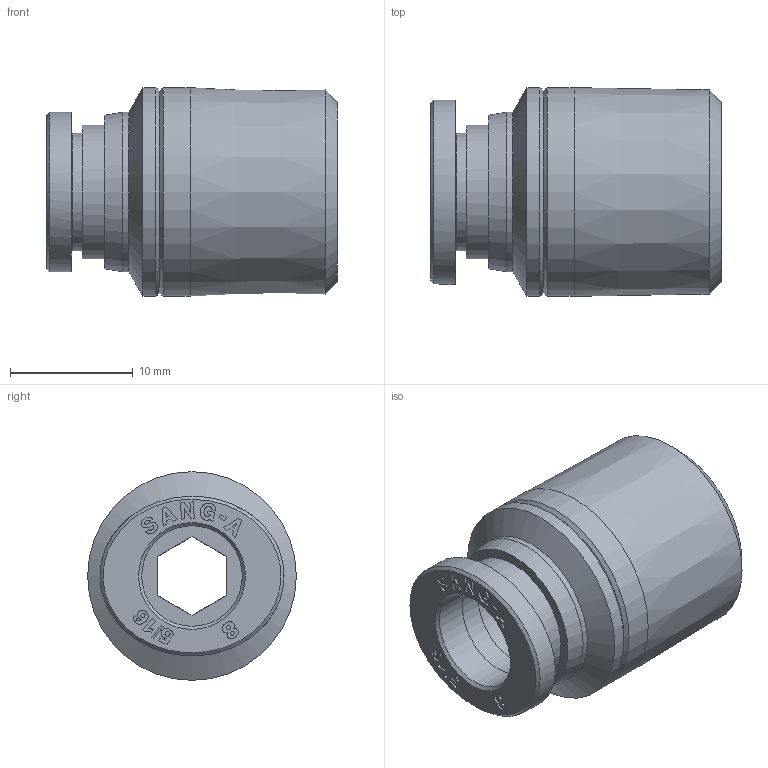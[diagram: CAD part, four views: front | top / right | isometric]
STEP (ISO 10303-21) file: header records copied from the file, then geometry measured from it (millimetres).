
FILE_DESCRIPTION((''),'2;1');
FILE_NAME('C:\Users\user0117\Desktop\김진일\G-FITTING INCH\5-16\PDF\G-FITTING INCH (STEP)\GPOC 5_16-N03U.stp','2020-04-20T13:46:30',('user0117'),(''),'Autodesk Inventor 2013','Autodesk Inventor 2013','');
FILE_SCHEMA(('AUTOMOTIVE_DESIGN { 1 0 10303 214 1 1 1 1 }'));
Length unit declared in the file: millimetre
Products named in the file (5): GPOC 5_16-N03U; GPOC BODY 5_16-N03U(BRASS); G-COLLAR 5-16C; COLLAR G08C; SLEEVE G08
Assembly tree (4 placements, depth 3):
  GPOC 5_16-N03U
    GPOC BODY 5_16-N03U(BRASS)
    G-COLLAR 5-16C
      COLLAR G08C
      SLEEVE G08
Bounding box: 23.7 x 17 x 17 mm (x, y, z)
Volume: 3327.5 mm3; surface area: 2319.8 mm2
Topology: 3 solids, 3 shells, 392 faces, 1096 edges, 728 vertices
Faces by surface type: plane 347, bspline 20, cylinder 15, cone 10
Full cylindrical faces by diameter (mm): 8.2 x3, 9 x1, 9.6 x1, 10.9 x1, 13 x1, 17 x2
Entity records: 12728 total; most frequent: CARTESIAN_POINT 2624, ORIENTED_EDGE 2140, DIRECTION 1897, EDGE_CURVE 1070, VECTOR 987, LINE 987, VERTEX_POINT 722, AXIS2_PLACEMENT_3D 455
